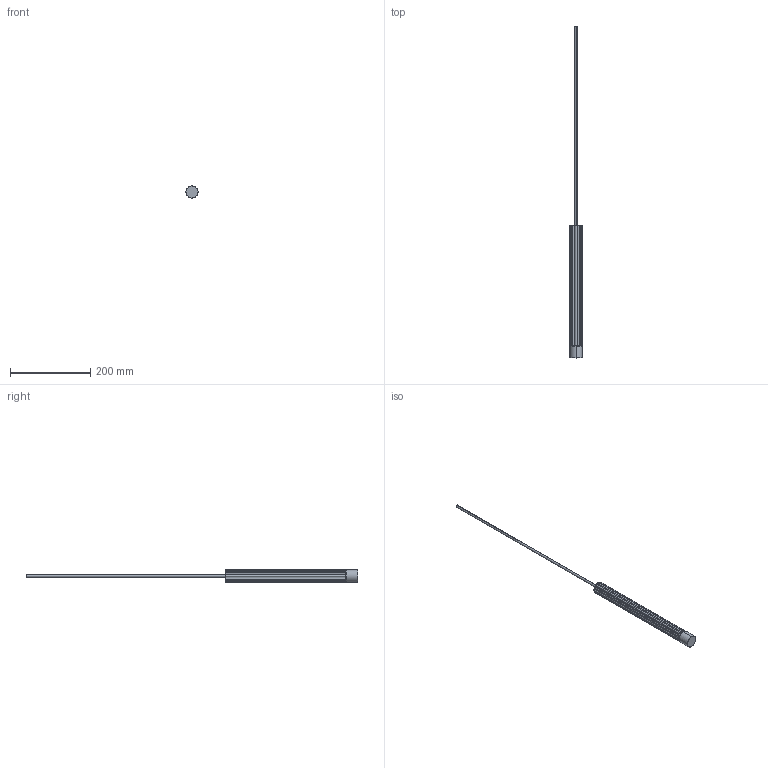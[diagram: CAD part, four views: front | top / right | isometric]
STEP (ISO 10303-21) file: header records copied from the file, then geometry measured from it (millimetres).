
FILE_DESCRIPTION (( 'STEP AP203' ), '1' );
FILE_NAME ('tob stripes 30.STEP', '2022-11-21T00:11:07', ( '' ), ( '' ), 'SwSTEP 2.0', 'SolidWorks 2014', '' );
FILE_SCHEMA (( 'CONFIG_CONTROL_DESIGN' ));
Length unit declared in the file: millimetre
Products named in the file (1): tob stripes 30
Bounding box: 30 x 826 x 30 mm (x, y, z)
Volume: 202861.7 mm3; surface area: 54235.2 mm2
Topology: 3 solids, 3 shells, 363 faces, 868 edges, 512 vertices
Faces by surface type: cylinder 168, torus 140, plane 55
Entity records: 10655 total; most frequent: DIRECTION 2152, CARTESIAN_POINT 1744, ORIENTED_EDGE 1736, AXIS2_PLACEMENT_3D 920, EDGE_CURVE 868, CIRCLE 556, VERTEX_POINT 512, EDGE_LOOP 366
